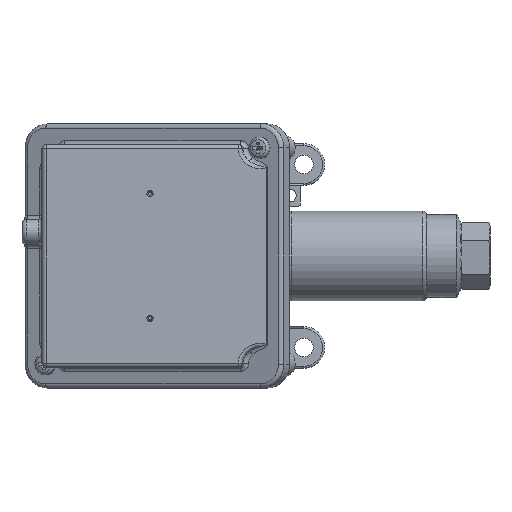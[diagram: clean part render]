
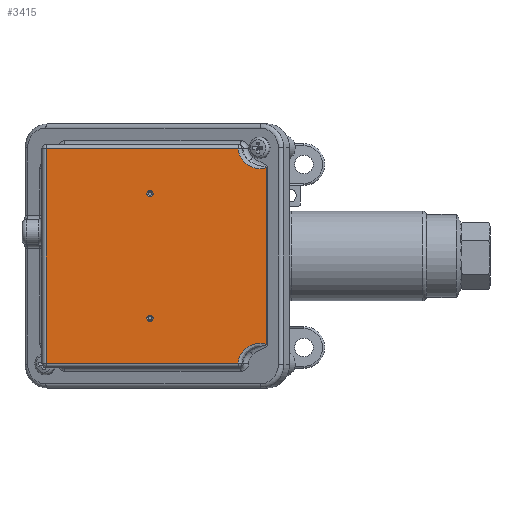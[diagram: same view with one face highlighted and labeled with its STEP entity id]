
A CAD part, left-side view. The second image highlights one B-rep face of the part: STEP entity #3415.
In plain terms, the highlighted planar face has unit normal (-1, 0.005, 0).
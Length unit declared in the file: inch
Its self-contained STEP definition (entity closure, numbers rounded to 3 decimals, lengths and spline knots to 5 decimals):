
#17 = ORIENTED_EDGE ( 'NONE', *, *, #568, .T. ) ;
#453 = CARTESIAN_POINT ( 'NONE',  ( -2.31365, 1.9384, 0.937 ) ) ;
#463 = LINE ( 'NONE', #2838, #6460 ) ;
#568 = EDGE_CURVE ( 'NONE', #582, #5998, #7192, .T. ) ;
#582 = VERTEX_POINT ( 'NONE', #2006 ) ;
#603 = DIRECTION ( 'NONE',  ( -1., 0.005, 0. ) ) ;
#806 = CARTESIAN_POINT ( 'NONE',  ( -2.32276, 0.19397, 1.32146 ) ) ;
#809 = ORIENTED_EDGE ( 'NONE', *, *, #3735, .T. ) ;
#821 = CARTESIAN_POINT ( 'NONE',  ( -2.3055, 3.50088, -1.61 ) ) ;
#1013 = LINE ( 'NONE', #2710, #4069 ) ;
#1168 = CARTESIAN_POINT ( 'NONE',  ( -2.32282, 0.18143, 1.6725 ) ) ;
#1330 = VERTEX_POINT ( 'NONE', #821 ) ;
#1381 = CARTESIAN_POINT ( 'NONE',  ( -2.32276, 0.19397, -1.32146 ) ) ;
#1441 = EDGE_CURVE ( 'NONE', #2422, #4910, #2940, .T. ) ;
#1595 = EDGE_LOOP ( 'NONE', ( #5533 ) ) ;
#1729 = DIRECTION ( 'NONE',  ( -0.005, -1., 0. ) ) ;
#1788 = DIRECTION ( 'NONE',  ( 0.005, 1., 0. ) ) ;
#1795 = FACE_BOUND ( 'NONE', #1595, .T. ) ;
#2006 = CARTESIAN_POINT ( 'NONE',  ( -2.32057, 0.61286, -1.61 ) ) ;
#2113 = VERTEX_POINT ( 'NONE', #2268 ) ;
#2120 = ORIENTED_EDGE ( 'NONE', *, *, #6237, .T. ) ;
#2267 = AXIS2_PLACEMENT_3D ( 'NONE', #1168, #3625, #5401 ) ;
#2268 = CARTESIAN_POINT ( 'NONE',  ( -2.32276, 0.19397, 1.32146 ) ) ;
#2284 = DIRECTION ( 'NONE',  ( -1., 0.005, 0. ) ) ;
#2345 = DIRECTION ( 'NONE',  ( -0.005, -1., 0. ) ) ;
#2422 = VERTEX_POINT ( 'NONE', #3832 ) ;
#2559 = VECTOR ( 'NONE', #6500, 39.37008 ) ;
#2570 = CARTESIAN_POINT ( 'NONE',  ( -2.32063, 0.60182, -1.39798 ) ) ;
#2574 = CARTESIAN_POINT ( 'NONE',  ( -2.31389, 1.8919, 0.937 ) ) ;
#2710 = CARTESIAN_POINT ( 'NONE',  ( -2.3055, 3.50088, 1.6725 ) ) ;
#2757 = EDGE_LOOP ( 'NONE', ( #7024 ) ) ;
#2796 = CARTESIAN_POINT ( 'NONE',  ( -2.32276, 0.19397, -1.32146 ) ) ;
#2838 = CARTESIAN_POINT ( 'NONE',  ( -2.32081, 0.56672, -1.61 ) ) ;
#2940 = LINE ( 'NONE', #5315, #3580 ) ;
#3126 = EDGE_CURVE ( 'NONE', #1330, #582, #463, .T. ) ;
#3227 = CARTESIAN_POINT ( 'NONE',  ( -2.32063, 0.60182, 1.39798 ) ) ;
#3240 = CARTESIAN_POINT ( 'NONE',  ( -2.32057, 0.61286, -1.61 ) ) ;
#3350 =( BOUNDED_CURVE ( )  B_SPLINE_CURVE ( 3, ( #806, #3794, #3227, #5640 ),
 .UNSPECIFIED., .F., .T. ) 
 B_SPLINE_CURVE_WITH_KNOTS ( ( 4, 4 ),
 ( 1.33072, 3.09357 ),
 .UNSPECIFIED. ) 
 CURVE ( )  GEOMETRIC_REPRESENTATION_ITEM ( )  RATIONAL_B_SPLINE_CURVE ( ( 1., 0.757, 0.757, 1. ) ) 
 REPRESENTATION_ITEM ( '' )  );
#3415 = ADVANCED_FACE ( 'NONE', ( #3470, #1795, #3547 ), #7150, .F. ) ;
#3446 = LINE ( 'NONE', #7684, #2559 ) ;
#3470 = FACE_BOUND ( 'NONE', #2757, .T. ) ;
#3547 = FACE_OUTER_BOUND ( 'NONE', #6675, .T. ) ;
#3580 = VECTOR ( 'NONE', #1788, 39.37008 ) ;
#3625 = DIRECTION ( 'NONE',  ( 1., -0.005, 0. ) ) ;
#3735 = EDGE_CURVE ( 'NONE', #5998, #2113, #3446, .T. ) ;
#3764 = CIRCLE ( 'NONE', #5396, 0.0465 ) ;
#3794 = CARTESIAN_POINT ( 'NONE',  ( -2.32159, 0.41746, 1.27099 ) ) ;
#3832 = CARTESIAN_POINT ( 'NONE',  ( -2.32057, 0.61286, 1.61 ) ) ;
#4069 = VECTOR ( 'NONE', #7076, 39.37008 ) ;
#4279 = CARTESIAN_POINT ( 'NONE',  ( -2.31389, 1.8919, -0.938 ) ) ;
#4502 = EDGE_CURVE ( 'NONE', #4963, #4963, #3764, .T. ) ;
#4769 = ORIENTED_EDGE ( 'NONE', *, *, #3126, .T. ) ;
#4837 = CARTESIAN_POINT ( 'NONE',  ( -2.31365, 1.9384, -0.938 ) ) ;
#4910 = VERTEX_POINT ( 'NONE', #6653 ) ;
#4917 = VERTEX_POINT ( 'NONE', #4279 ) ;
#4919 = EDGE_CURVE ( 'NONE', #4917, #4917, #6166, .T. ) ;
#4963 = VERTEX_POINT ( 'NONE', #2574 ) ;
#5315 = CARTESIAN_POINT ( 'NONE',  ( -2.32282, 0.18143, 1.61 ) ) ;
#5326 = ORIENTED_EDGE ( 'NONE', *, *, #1441, .T. ) ;
#5396 = AXIS2_PLACEMENT_3D ( 'NONE', #453, #603, #2345 ) ;
#5401 = DIRECTION ( 'NONE',  ( 0.005, 1., 0. ) ) ;
#5533 = ORIENTED_EDGE ( 'NONE', *, *, #4919, .F. ) ;
#5640 = CARTESIAN_POINT ( 'NONE',  ( -2.32057, 0.61286, 1.61 ) ) ;
#5943 = EDGE_CURVE ( 'NONE', #4910, #1330, #1013, .T. ) ;
#5998 = VERTEX_POINT ( 'NONE', #2796 ) ;
#6166 = CIRCLE ( 'NONE', #7555, 0.0465 ) ;
#6237 = EDGE_CURVE ( 'NONE', #2113, #2422, #3350, .T. ) ;
#6290 = ORIENTED_EDGE ( 'NONE', *, *, #5943, .T. ) ;
#6460 = VECTOR ( 'NONE', #1729, 39.37008 ) ;
#6500 = DIRECTION ( 'NONE',  ( 0., 0., 1. ) ) ;
#6653 = CARTESIAN_POINT ( 'NONE',  ( -2.3055, 3.50088, 1.61 ) ) ;
#6675 = EDGE_LOOP ( 'NONE', ( #6290, #4769, #17, #809, #2120, #5326 ) ) ;
#6808 = CARTESIAN_POINT ( 'NONE',  ( -2.32159, 0.41746, -1.27099 ) ) ;
#7024 = ORIENTED_EDGE ( 'NONE', *, *, #4502, .F. ) ;
#7076 = DIRECTION ( 'NONE',  ( 0., 0., -1. ) ) ;
#7150 = PLANE ( 'NONE',  #2267 ) ;
#7192 =( BOUNDED_CURVE ( )  B_SPLINE_CURVE ( 3, ( #3240, #2570, #6808, #1381 ),
 .UNSPECIFIED., .F., .T. ) 
 B_SPLINE_CURVE_WITH_KNOTS ( ( 4, 4 ),
 ( 3.18961, 4.95247 ),
 .UNSPECIFIED. ) 
 CURVE ( )  GEOMETRIC_REPRESENTATION_ITEM ( )  RATIONAL_B_SPLINE_CURVE ( ( 1., 0.757, 0.757, 1. ) ) 
 REPRESENTATION_ITEM ( '' )  );
#7555 = AXIS2_PLACEMENT_3D ( 'NONE', #4837, #2284, #7726 ) ;
#7684 = CARTESIAN_POINT ( 'NONE',  ( -2.32276, 0.19397, 1.6725 ) ) ;
#7726 = DIRECTION ( 'NONE',  ( -0.005, -1., 0. ) ) ;
